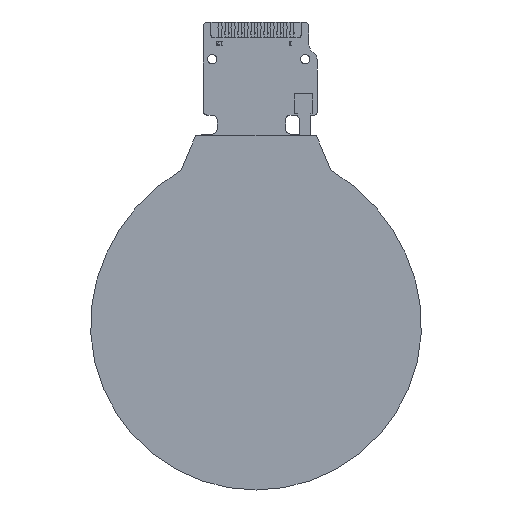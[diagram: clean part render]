
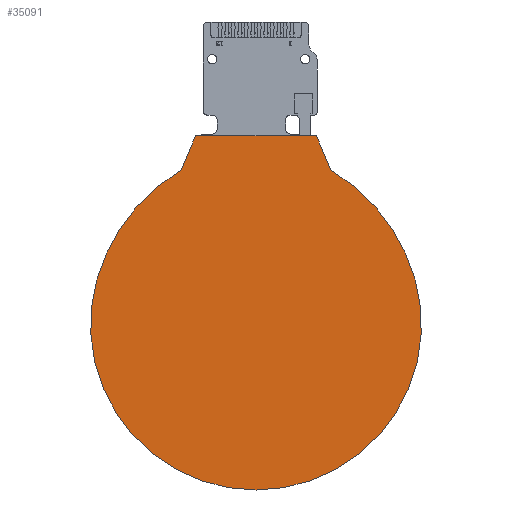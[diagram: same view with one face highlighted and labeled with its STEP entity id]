
A CAD part, front view. The second image highlights one B-rep face of the part: STEP entity #35091.
In plain terms, the highlighted planar face has unit normal (0, -1, 0).
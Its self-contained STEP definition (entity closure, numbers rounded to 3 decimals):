
#945 = VERTEX_POINT ( 'NONE', #34672 ) ;
#1003 = LINE ( 'NONE', #12770, #35428 ) ;
#1130 = DIRECTION ( 'NONE',  ( 1., 0., 0. ) ) ;
#1173 = ORIENTED_EDGE ( 'NONE', *, *, #41932, .F. ) ;
#1401 = DIRECTION ( 'NONE',  ( 0., 1., 0. ) ) ;
#2108 = VERTEX_POINT ( 'NONE', #18630 ) ;
#2657 = LINE ( 'NONE', #16800, #45027 ) ;
#2701 = CARTESIAN_POINT ( 'NONE',  ( -7.987, 0., 16.761 ) ) ;
#3262 = ORIENTED_EDGE ( 'NONE', *, *, #42022, .F. ) ;
#4278 = DIRECTION ( 'NONE',  ( 0., 0., 1. ) ) ;
#5234 = DIRECTION ( 'NONE',  ( 0., -1., 0. ) ) ;
#5472 = DIRECTION ( 'NONE',  ( 0., 0., 1. ) ) ;
#5607 = CIRCLE ( 'NONE', #31475, 17.8 ) ;
#8222 = CIRCLE ( 'NONE', #42936, 19.572 ) ;
#8575 = VERTEX_POINT ( 'NONE', #40336 ) ;
#8896 = AXIS2_PLACEMENT_3D ( 'NONE', #40427, #22853, #5472 ) ;
#9853 = DIRECTION ( 'NONE',  ( 0.386, 0., -0.923 ) ) ;
#10096 = ORIENTED_EDGE ( 'NONE', *, *, #37479, .F. ) ;
#11570 = LINE ( 'NONE', #36071, #26756 ) ;
#11816 = AXIS2_PLACEMENT_3D ( 'NONE', #39439, #32946, #14918 ) ;
#11978 = CARTESIAN_POINT ( 'NONE',  ( 6.508, 0., 20.3 ) ) ;
#11983 = EDGE_CURVE ( 'NONE', #36749, #16256, #21449, .T. ) ;
#12190 = ORIENTED_EDGE ( 'NONE', *, *, #39389, .F. ) ;
#12770 = CARTESIAN_POINT ( 'NONE',  ( -7.987, 0., 16.761 ) ) ;
#14856 = DIRECTION ( 'NONE',  ( 0., 0., 1. ) ) ;
#14918 = DIRECTION ( 'NONE',  ( 0., 0., 1. ) ) ;
#15061 = DIRECTION ( 'NONE',  ( 0., 0., 1. ) ) ;
#15525 = CARTESIAN_POINT ( 'NONE',  ( 8.977, 0., 17.427 ) ) ;
#15715 = EDGE_CURVE ( 'NONE', #30113, #25655, #11570, .T. ) ;
#16256 = VERTEX_POINT ( 'NONE', #22855 ) ;
#16475 = CARTESIAN_POINT ( 'NONE',  ( -1.808, 0., -0.307 ) ) ;
#16800 = CARTESIAN_POINT ( 'NONE',  ( 7.987, 0., 16.761 ) ) ;
#16849 = ORIENTED_EDGE ( 'NONE', *, *, #43188, .F. ) ;
#18630 = CARTESIAN_POINT ( 'NONE',  ( 7.987, 0., 16.761 ) ) ;
#18648 = DIRECTION ( 'NONE',  ( 0., 1., 0. ) ) ;
#20672 = ORIENTED_EDGE ( 'NONE', *, *, #11983, .F. ) ;
#21233 = VERTEX_POINT ( 'NONE', #2701 ) ;
#21449 = CIRCLE ( 'NONE', #11816, 17.8 ) ;
#21966 = CARTESIAN_POINT ( 'NONE',  ( -8.977, 0., 17.427 ) ) ;
#22227 = AXIS2_PLACEMENT_3D ( 'NONE', #16475, #31486, #30800 ) ;
#22853 = DIRECTION ( 'NONE',  ( 0., 1., 0. ) ) ;
#22855 = CARTESIAN_POINT ( 'NONE',  ( -16.105, 0., 7.582 ) ) ;
#23726 = ORIENTED_EDGE ( 'NONE', *, *, #29840, .F. ) ;
#24314 = VERTEX_POINT ( 'NONE', #36170 ) ;
#25655 = VERTEX_POINT ( 'NONE', #11978 ) ;
#26314 = PLANE ( 'NONE',  #8896 ) ;
#26694 = EDGE_CURVE ( 'NONE', #16256, #8575, #8222, .T. ) ;
#26756 = VECTOR ( 'NONE', #1130, 1000. ) ;
#27107 = EDGE_LOOP ( 'NONE', ( #16849, #28040, #20672, #12190, #3262, #23726, #10096, #41294, #1173 ) ) ;
#28040 = ORIENTED_EDGE ( 'NONE', *, *, #26694, .F. ) ;
#28590 = CIRCLE ( 'NONE', #33743, 1.193 ) ;
#29766 = FACE_OUTER_BOUND ( 'NONE', #27107, .T. ) ;
#29840 = EDGE_CURVE ( 'NONE', #2108, #945, #28590, .T. ) ;
#30113 = VERTEX_POINT ( 'NONE', #31459 ) ;
#30800 = DIRECTION ( 'NONE',  ( 0., 0., 1. ) ) ;
#31459 = CARTESIAN_POINT ( 'NONE',  ( -6.508, 0., 20.3 ) ) ;
#31475 = AXIS2_PLACEMENT_3D ( 'NONE', #39619, #1401, #14856 ) ;
#31486 = DIRECTION ( 'NONE',  ( 0., 1., 0. ) ) ;
#32531 = CIRCLE ( 'NONE', #22227, 19.572 ) ;
#32946 = DIRECTION ( 'NONE',  ( 0., 1., 0. ) ) ;
#33743 = AXIS2_PLACEMENT_3D ( 'NONE', #15525, #40272, #15061 ) ;
#34672 = CARTESIAN_POINT ( 'NONE',  ( 8.236, 0., 16.492 ) ) ;
#35091 = ADVANCED_FACE ( 'NONE', ( #29766 ), #26314, .F. ) ;
#35428 = VECTOR ( 'NONE', #37042, 1000. ) ;
#36071 = CARTESIAN_POINT ( 'NONE',  ( -6.508, 0., 20.3 ) ) ;
#36170 = CARTESIAN_POINT ( 'NONE',  ( 16.105, 0., 7.582 ) ) ;
#36749 = VERTEX_POINT ( 'NONE', #38171 ) ;
#36951 = AXIS2_PLACEMENT_3D ( 'NONE', #21966, #5234, #43890 ) ;
#37042 = DIRECTION ( 'NONE',  ( 0.386, 0., 0.923 ) ) ;
#37479 = EDGE_CURVE ( 'NONE', #25655, #2108, #2657, .T. ) ;
#38171 = CARTESIAN_POINT ( 'NONE',  ( 0., 0., -17.8 ) ) ;
#39389 = EDGE_CURVE ( 'NONE', #24314, #36749, #5607, .T. ) ;
#39439 = CARTESIAN_POINT ( 'NONE',  ( 0., 0., 0. ) ) ;
#39619 = CARTESIAN_POINT ( 'NONE',  ( 0., 0., 0. ) ) ;
#39895 = CIRCLE ( 'NONE', #36951, 1.193 ) ;
#40272 = DIRECTION ( 'NONE',  ( 0., -1., 0. ) ) ;
#40336 = CARTESIAN_POINT ( 'NONE',  ( -8.236, 0., 16.492 ) ) ;
#40427 = CARTESIAN_POINT ( 'NONE',  ( -8.977, 0., 17.427 ) ) ;
#41294 = ORIENTED_EDGE ( 'NONE', *, *, #15715, .F. ) ;
#41932 = EDGE_CURVE ( 'NONE', #21233, #30113, #1003, .T. ) ;
#42022 = EDGE_CURVE ( 'NONE', #945, #24314, #32531, .T. ) ;
#42936 = AXIS2_PLACEMENT_3D ( 'NONE', #42941, #18648, #4278 ) ;
#42941 = CARTESIAN_POINT ( 'NONE',  ( 1.808, 0., -0.307 ) ) ;
#43188 = EDGE_CURVE ( 'NONE', #8575, #21233, #39895, .T. ) ;
#43890 = DIRECTION ( 'NONE',  ( 0., 0., 1. ) ) ;
#45027 = VECTOR ( 'NONE', #9853, 1000. ) ;
